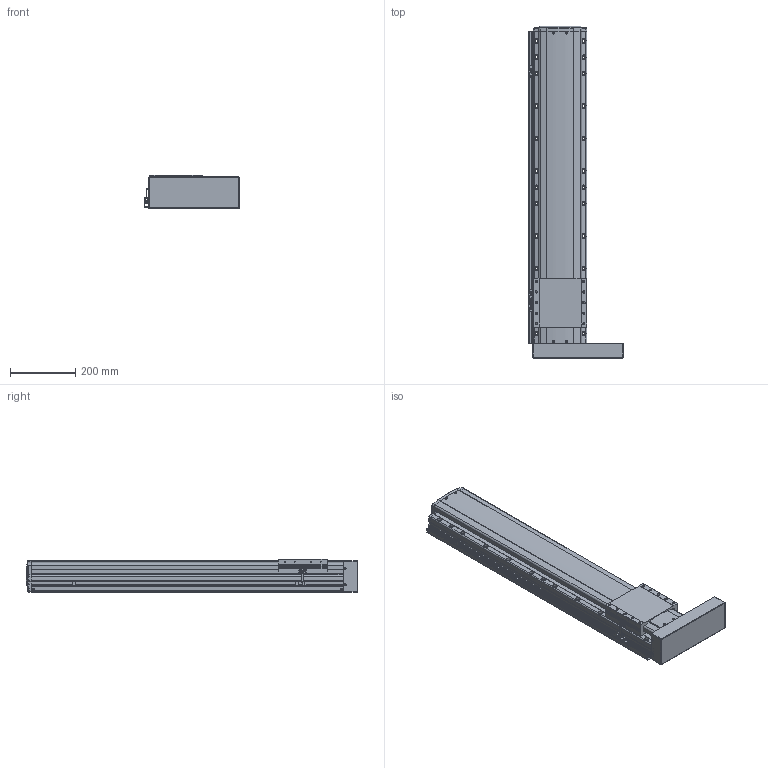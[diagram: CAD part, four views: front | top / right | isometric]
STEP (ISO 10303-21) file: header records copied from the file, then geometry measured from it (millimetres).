
FILE_DESCRIPTION(('STEP AP214'),'1');
FILE_NAME('Z:/Web/3D/PSA165/STP/PSA165-700 (3D)/PSA165ㅁㅁ-700PR+3SL.stp','2014-06-23T11:38:57',(' '),(' '),'Spatial InterOp 3D',' ',' ');
FILE_SCHEMA(('automotive_design'));
Length unit declared in the file: millimetre
Products named in the file (41): 스크루 : Round - M4.0 x 12.0; RRCV-PA160; BASE; 스크루 : Round - M4.0 x 10.0; RN15; Screw 20; SLIDE; FRCV; MTPL; 스크루 : Round - M3.0 x 6.0; M3.0 x 6.0; SRL-16x17-360L; SGD-SAN150; EE-SX674; SBK-SX674-352; BHCS M4.0 x 10.0
Bounding box: 294.46 x 1020.8 x 104 mm (x, y, z)
Volume: 14771919.1 mm3; surface area: 1064466.7 mm2
Topology: 41 solids, 41 shells, 2536 faces, 6793 edges, 4361 vertices
Faces by surface type: plane 1451, cylinder 763, cone 217, sphere 64, bspline 25, torus 16
Entity records: 102853 total; most frequent: CARTESIAN_POINT 17773, DIRECTION 13531, ORIENTED_EDGE 13294, EDGE_CURVE 6647, AXIS2_PLACEMENT_3D 4533, LINE 4465, VECTOR 4465, VERTEX_POINT 4361
